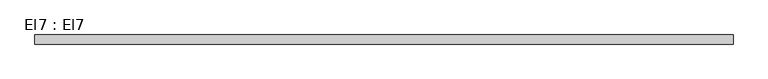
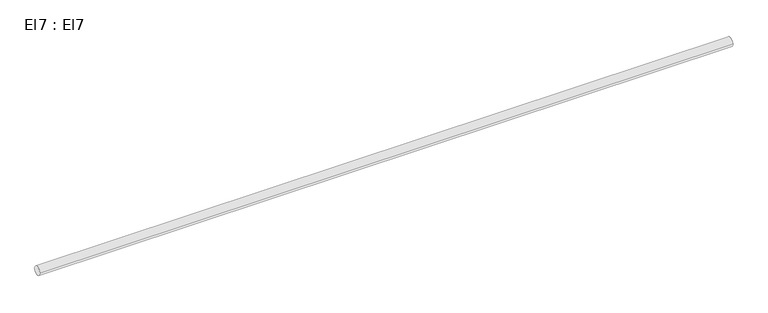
"""IFC4 building model written with IfcOpenShell, lengths in millimetres: cable carrier segment geometry, El7 : El7."""

from ifc_helpers import new_model, si_unit, point, frame, frame_2d, origin, place, context, project, spatial, circle_curve, trimmed, segment, composite_curve, outline, extrude, source, transform, mapped, element, save


def el7_el7_142b0567(model_context):
    return source(origin(), model_context, "Body", "SweptSolid", [
        extrude(outline(composite_curve([segment(trimmed(circle_curve(frame_2d((12029.6, 2950.0)), 9.5), [point((12020.1, 2950.0))], [point((12039.1, 2950.0))], False, "CARTESIAN"), True, "CONTINUOUS"), segment(trimmed(circle_curve(frame_2d((12029.6, 2950.0)), 9.5), [point((12039.1, 2950.0))], [point((12020.1, 2950.0))], False, "CARTESIAN"), True, "CONTINUOUS")], self_intersect=False)), frame((4275.8, 0.0, 0.0), z_axis=(1.0, 0.0, 0.0), x_axis=(0.0, 1.0, 0.0)), (0.0, 0.0, 1.0), 1450.0),
    ])


if __name__ == "__main__":
    model = new_model("IFC4")
    model_context = context("Model", 3, world=origin())
    ifc_project = project(units=[si_unit("LENGTHUNIT", "METRE", prefix="MILLI")], contexts=[model_context])
    site = spatial("IfcSite", under=ifc_project)
    building = spatial("IfcBuilding", under=site)
    placement = place(None, origin())
    el7_el7_shape = el7_el7_142b0567(model_context)
    element("IfcCableCarrierSegment", 1, ObjectType="El7 : El7", at=placement, inside=building, context=model_context, shape_type="MappedRepresentation", body=[
        mapped(el7_el7_shape, transform((0.0, 0.0, 0.0), x_axis=(1.0, 0.0, 0.0), y_axis=(0.0, 1.0, 0.0), z_axis=(0.0, 0.0, 1.0))),
    ])
    save(model, "model.ifc")
